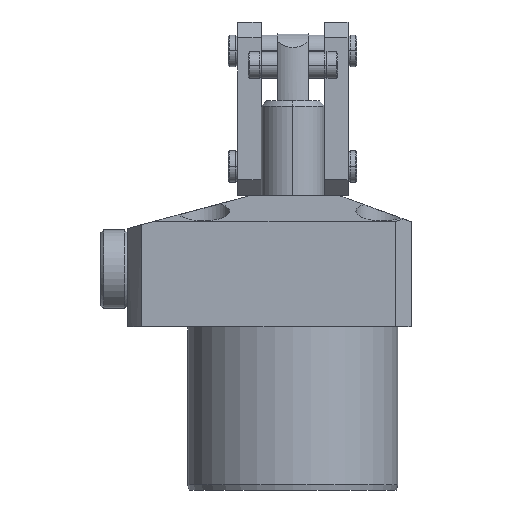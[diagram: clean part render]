
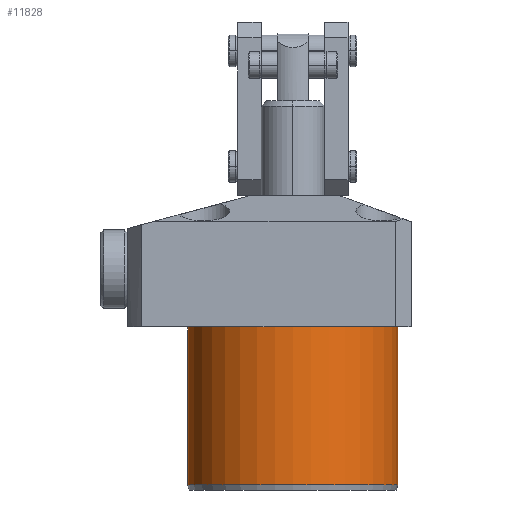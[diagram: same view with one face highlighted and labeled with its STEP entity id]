
A CAD part, front view. The second image highlights one B-rep face of the part: STEP entity #11828.
In plain terms, the highlighted cylindrical face has radius 20 mm (diameter 40 mm), a partial arc.
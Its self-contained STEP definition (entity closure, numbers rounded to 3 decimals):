
#578 = DIRECTION ( 'NONE',  ( 0., 0., 1. ) ) ;
#1400 = AXIS2_PLACEMENT_3D ( 'NONE', #2729, #4059, #2668 ) ;
#2576 = CARTESIAN_POINT ( 'NONE',  ( 0., 0., -30. ) ) ;
#2668 = DIRECTION ( 'NONE',  ( 1., 0., 0. ) ) ;
#2669 = CIRCLE ( 'NONE', #12638, 20. ) ;
#2729 = CARTESIAN_POINT ( 'NONE',  ( 0., 0., -31. ) ) ;
#3353 = FACE_OUTER_BOUND ( 'NONE', #7529, .T. ) ;
#3902 = DIRECTION ( 'NONE',  ( -1., 0., 0. ) ) ;
#4059 = DIRECTION ( 'NONE',  ( 0., 0., 1. ) ) ;
#4313 = CARTESIAN_POINT ( 'NONE',  ( -20., 0., 0. ) ) ;
#4806 = LINE ( 'NONE', #13681, #14392 ) ;
#5010 = AXIS2_PLACEMENT_3D ( 'NONE', #2576, #11771, #3902 ) ;
#5017 = CARTESIAN_POINT ( 'NONE',  ( -20., 0., -30. ) ) ;
#5464 = CIRCLE ( 'NONE', #5010, 20. ) ;
#6065 = DIRECTION ( 'NONE',  ( 0., 0., -1. ) ) ;
#6096 = VERTEX_POINT ( 'NONE', #7315 ) ;
#6347 = VERTEX_POINT ( 'NONE', #4313 ) ;
#6438 = CYLINDRICAL_SURFACE ( 'NONE', #1400, 20. ) ;
#6802 = ORIENTED_EDGE ( 'NONE', *, *, #14859, .T. ) ;
#7067 = EDGE_CURVE ( 'NONE', #14121, #6096, #5464, .T. ) ;
#7315 = CARTESIAN_POINT ( 'NONE',  ( 20., 0., -30. ) ) ;
#7529 = EDGE_LOOP ( 'NONE', ( #13874, #16136, #16909, #6802 ) ) ;
#8204 = LINE ( 'NONE', #11138, #11297 ) ;
#8667 = CARTESIAN_POINT ( 'NONE',  ( 20., 0., 0. ) ) ;
#9273 = EDGE_CURVE ( 'NONE', #6096, #15325, #4806, .T. ) ;
#11138 = CARTESIAN_POINT ( 'NONE',  ( -20., 0., -31. ) ) ;
#11297 = VECTOR ( 'NONE', #14997, 1000. ) ;
#11771 = DIRECTION ( 'NONE',  ( 0., 0., 1. ) ) ;
#11828 = ADVANCED_FACE ( 'NONE', ( #3353 ), #6438, .T. ) ;
#12638 = AXIS2_PLACEMENT_3D ( 'NONE', #13884, #6065, #15198 ) ;
#13681 = CARTESIAN_POINT ( 'NONE',  ( 20., 0., -31. ) ) ;
#13874 = ORIENTED_EDGE ( 'NONE', *, *, #15284, .F. ) ;
#13884 = CARTESIAN_POINT ( 'NONE',  ( 0., 0., 0. ) ) ;
#14121 = VERTEX_POINT ( 'NONE', #5017 ) ;
#14392 = VECTOR ( 'NONE', #578, 1000. ) ;
#14859 = EDGE_CURVE ( 'NONE', #15325, #6347, #2669, .T. ) ;
#14997 = DIRECTION ( 'NONE',  ( 0., 0., 1. ) ) ;
#15198 = DIRECTION ( 'NONE',  ( 1., 0., 0. ) ) ;
#15284 = EDGE_CURVE ( 'NONE', #14121, #6347, #8204, .T. ) ;
#15325 = VERTEX_POINT ( 'NONE', #8667 ) ;
#16136 = ORIENTED_EDGE ( 'NONE', *, *, #7067, .T. ) ;
#16909 = ORIENTED_EDGE ( 'NONE', *, *, #9273, .T. ) ;
